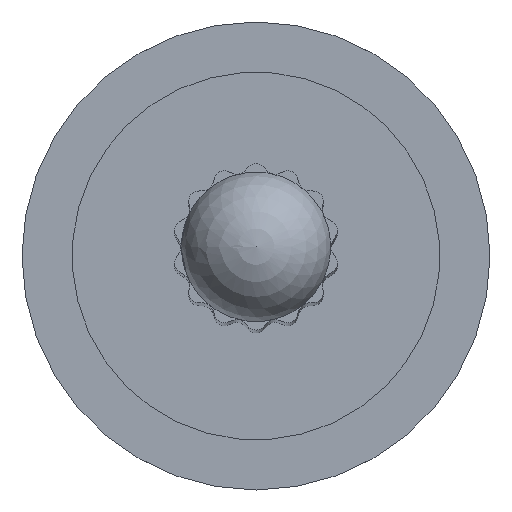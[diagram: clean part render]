
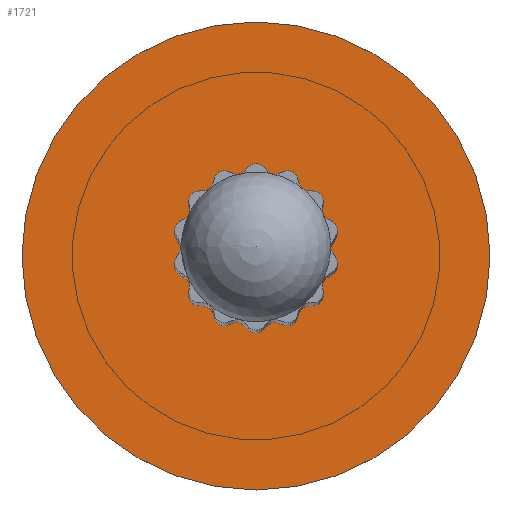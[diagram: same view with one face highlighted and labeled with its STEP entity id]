
A CAD part, top view. The second image highlights one B-rep face of the part: STEP entity #1721.
In plain terms, the highlighted planar face has unit normal (0, 0, 1).
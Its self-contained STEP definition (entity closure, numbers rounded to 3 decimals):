
#54=PLANE('',#1875);
#115=FACE_OUTER_BOUND('',#219,.T.);
#219=EDGE_LOOP('',(#1134));
#584=CIRCLE('',#1876,70.);
#691=VERTEX_POINT('',#2665);
#862=EDGE_CURVE('',#691,#691,#584,.T.);
#1134=ORIENTED_EDGE('',*,*,#862,.T.);
#1721=ADVANCED_FACE('',(#115),#54,.T.);
#1875=AXIS2_PLACEMENT_3D('',#2664,#2138,#2139);
#1876=AXIS2_PLACEMENT_3D('',#2666,#2140,#2141);
#2138=DIRECTION('center_axis',(0.,0.,
1.));
#2139=DIRECTION('ref_axis',(0.,-1.,0.));
#2140=DIRECTION('center_axis',(0.,0.,
1.));
#2141=DIRECTION('ref_axis',(1.,0.,0.));
#2664=CARTESIAN_POINT('Origin',(0.,0.,
2075.));
#2665=CARTESIAN_POINT('',(-70.,0.,2075.));
#2666=CARTESIAN_POINT('Origin',(0.,0.,
2075.));
